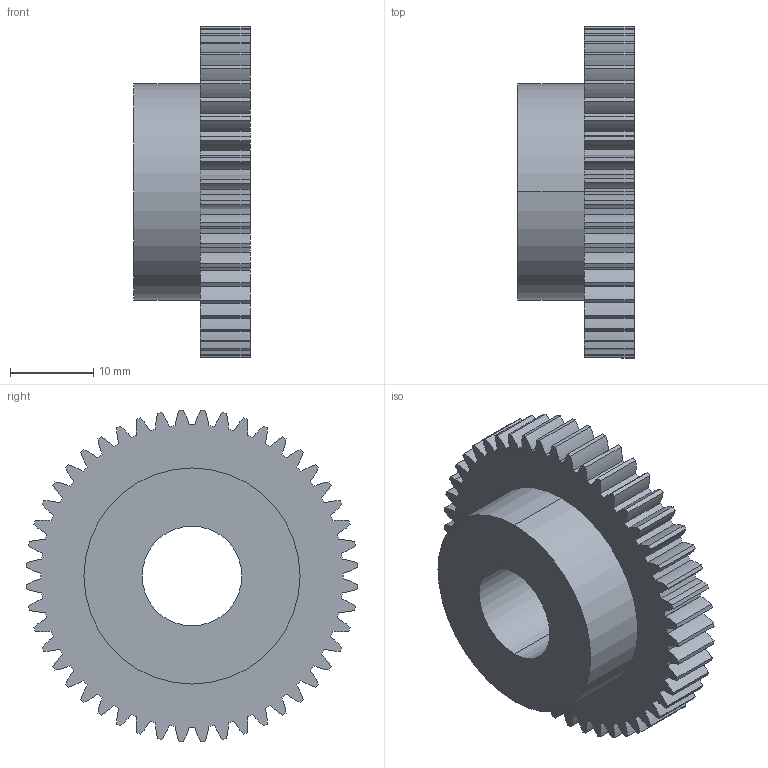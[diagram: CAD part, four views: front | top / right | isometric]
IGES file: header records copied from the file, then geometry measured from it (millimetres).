
Start section: 3D InterOp IGES (v. 2020 1.0.1), Spatial Corp. Copyright (c) 1999-2017.
Global section: file name: ssp08_w6_t48_b.igs; native system: Spatial Corp.; preprocessor: 3D InterOp ACIS/IGES; author: TraceParts; organization: TraceParts S.A.; date: 20220624.032944; units: millimetre
Bounding box: 14 x 39.94 x 39.94 mm (x, y, z)
Surface area: 4691.1 mm2 (no closed solid volume)
Topology: 0 solids, 0 shells, 209 faces, 1236 edges, 1236 vertices
Faces by surface type: revolution 206, extrusion 3
